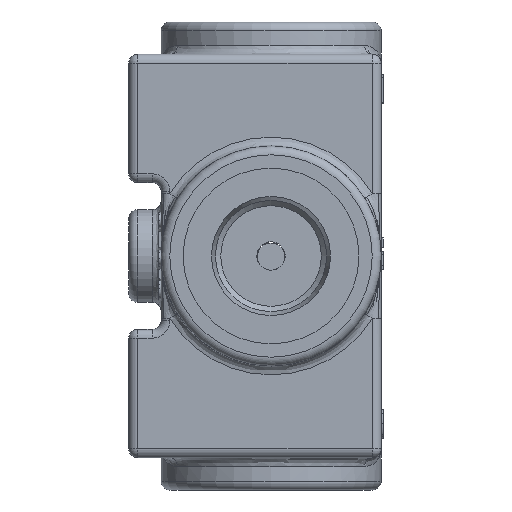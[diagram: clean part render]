
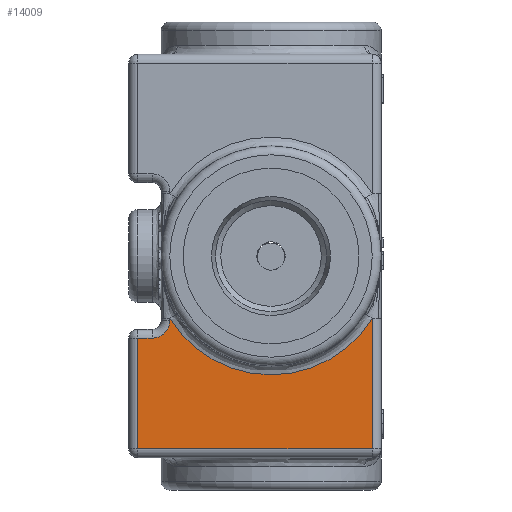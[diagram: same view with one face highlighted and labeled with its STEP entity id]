
A CAD part, front view. The second image highlights one B-rep face of the part: STEP entity #14009.
In plain terms, the highlighted planar face has unit normal (0, -1, 0).
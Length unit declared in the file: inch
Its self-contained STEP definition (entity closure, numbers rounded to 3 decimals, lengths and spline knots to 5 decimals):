
#464=CARTESIAN_POINT('',(-0.69,-1.34,-0.42426));
#465=VERTEX_POINT('',#464);
#1291=CARTESIAN_POINT('',(0.69,-1.34,-0.42426));
#1292=VERTEX_POINT('',#1291);
#12618=CARTESIAN_POINT('',(-0.91,-1.34,-1.315));
#12619=VERTEX_POINT('',#12618);
#12763=CARTESIAN_POINT('',(-0.91,-1.34,-0.56));
#12764=VERTEX_POINT('',#12763);
#12798=CARTESIAN_POINT('',(0.69,-1.34,-1.315));
#12799=VERTEX_POINT('',#12798);
#12834=CARTESIAN_POINT('',(0.69,-1.34,-1.315));
#12835=DIRECTION('',(-1.0,0.0,0.0));
#12836=VECTOR('',#12835,1.6);
#12837=LINE('',#12834,#12836);
#12838=EDGE_CURVE('',#12799,#12619,#12837,.T.);
#12886=CARTESIAN_POINT('',(-0.81,-1.34,-0.56));
#12887=VERTEX_POINT('',#12886);
#12895=CARTESIAN_POINT('',(-0.69,-1.34,-0.44));
#12896=VERTEX_POINT('',#12895);
#12897=CARTESIAN_POINT('',(-0.81,-1.34,-0.44));
#12898=DIRECTION('',(0.0,-1.,0.0));
#12899=DIRECTION('',(0.707,0.0,-0.707));
#12900=AXIS2_PLACEMENT_3D('',#12897,#12898,#12899);
#12901=CIRCLE('',#12900,0.12);
#12902=EDGE_CURVE('',#12887,#12896,#12901,.T.);
#12920=CARTESIAN_POINT('',(-0.91,-1.34,-0.56));
#12921=DIRECTION('',(1.0,0.0,0.0));
#12922=VECTOR('',#12921,0.1);
#12923=LINE('',#12920,#12922);
#12924=EDGE_CURVE('',#12764,#12887,#12923,.T.);
#13674=CARTESIAN_POINT('',(-0.69,-1.34,-0.44));
#13675=DIRECTION('',(0.0,0.0,1.0));
#13676=VECTOR('',#13675,0.01574);
#13677=LINE('',#13674,#13676);
#13678=EDGE_CURVE('',#12896,#465,#13677,.T.);
#13734=CARTESIAN_POINT('',(0.0,-1.34,0.));
#13735=DIRECTION('',(0.0,-1.0,0.0));
#13736=DIRECTION('',(0.0,0.0,-1.0));
#13737=AXIS2_PLACEMENT_3D('',#13734,#13735,#13736);
#13738=CIRCLE('',#13737,0.81);
#13739=EDGE_CURVE('',#465,#1292,#13738,.T.);
#13832=CARTESIAN_POINT('',(0.69,-1.34,-0.42426));
#13833=DIRECTION('',(0.0,0.0,-1.0));
#13834=VECTOR('',#13833,0.89074);
#13835=LINE('',#13832,#13834);
#13836=EDGE_CURVE('',#1292,#12799,#13835,.T.);
#13893=CARTESIAN_POINT('',(-0.91,-1.34,-1.315));
#13894=DIRECTION('',(0.0,0.0,1.0));
#13895=VECTOR('',#13894,0.755);
#13896=LINE('',#13893,#13895);
#13897=EDGE_CURVE('',#12619,#12764,#13896,.T.);
#13995=CARTESIAN_POINT('',(0.0,-1.34,-1.375));
#13996=DIRECTION('',(0.0,-1.0,0.0));
#13997=DIRECTION('',(0.0,0.0,-1.0));
#13998=AXIS2_PLACEMENT_3D('',#13995,#13996,#13997);
#13999=PLANE('',#13998);
#14000=ORIENTED_EDGE('',*,*,#12902,.F.);
#14001=ORIENTED_EDGE('',*,*,#12924,.F.);
#14002=ORIENTED_EDGE('',*,*,#13897,.F.);
#14003=ORIENTED_EDGE('',*,*,#12838,.F.);
#14004=ORIENTED_EDGE('',*,*,#13836,.F.);
#14005=ORIENTED_EDGE('',*,*,#13739,.F.);
#14006=ORIENTED_EDGE('',*,*,#13678,.F.);
#14007=EDGE_LOOP('',(#14000,#14001,#14002,#14003,#14004,#14005,#14006));
#14008=FACE_OUTER_BOUND('',#14007,.T.);
#14009=ADVANCED_FACE('',(#14008),#13999,.T.);
